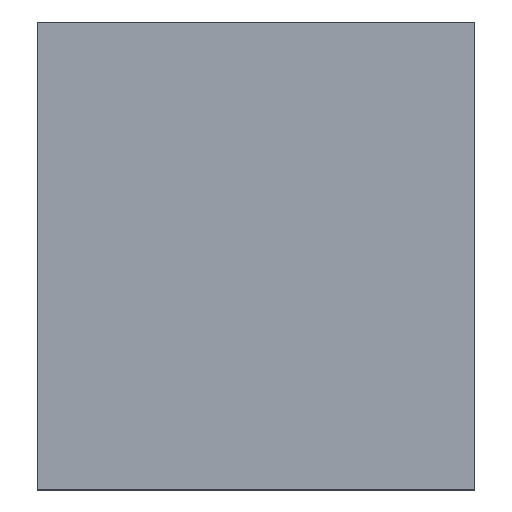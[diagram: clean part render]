
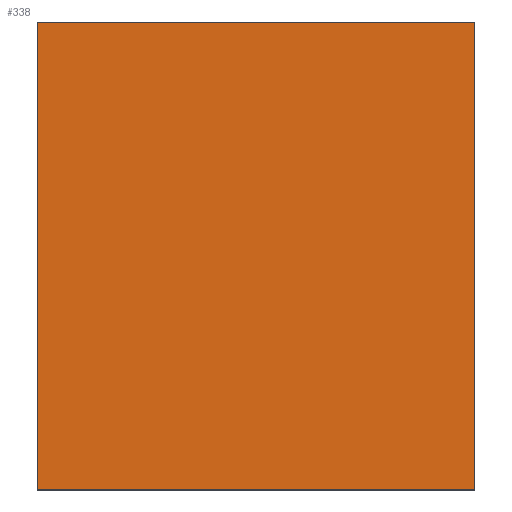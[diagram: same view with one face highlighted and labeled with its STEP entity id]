
A CAD part, top view. The second image highlights one B-rep face of the part: STEP entity #338.
In plain terms, the highlighted planar face has unit normal (0, 0, 1).
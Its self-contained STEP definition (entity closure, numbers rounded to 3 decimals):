
#24 = VERTEX_POINT('',#25);
#25 = CARTESIAN_POINT('',(100.,-107.,20.));
#32 = PLANE('',#33);
#33 = AXIS2_PLACEMENT_3D('',#34,#35,#36);
#34 = CARTESIAN_POINT('',(100.,-107.,0.));
#35 = DIRECTION('',(-0.,1.,-0.));
#36 = DIRECTION('',(1.,0.,0.));
#44 = PLANE('',#45);
#45 = AXIS2_PLACEMENT_3D('',#46,#47,#48);
#46 = CARTESIAN_POINT('',(100.,107.,0.));
#47 = DIRECTION('',(-1.,-0.,-0.));
#48 = DIRECTION('',(0.,1.,0.));
#56 = EDGE_CURVE('',#24,#57,#59,.T.);
#57 = VERTEX_POINT('',#58);
#58 = CARTESIAN_POINT('',(-100.,-107.,20.));
#59 = SURFACE_CURVE('',#60,(#64,#71),.PCURVE_S1.);
#60 = LINE('',#61,#62);
#61 = CARTESIAN_POINT('',(100.,-107.,20.));
#62 = VECTOR('',#63,1.);
#63 = DIRECTION('',(-1.,-0.,-0.));
#64 = PCURVE('',#32,#65);
#65 = DEFINITIONAL_REPRESENTATION('',(#66),#70);
#66 = LINE('',#67,#68);
#67 = CARTESIAN_POINT('',(-0.,-20.));
#68 = VECTOR('',#69,1.);
#69 = DIRECTION('',(-1.,0.));
#70 = ( GEOMETRIC_REPRESENTATION_CONTEXT(2) 
PARAMETRIC_REPRESENTATION_CONTEXT() REPRESENTATION_CONTEXT('2D SPACE',''
  ) );
#71 = PCURVE('',#72,#77);
#72 = PLANE('',#73);
#73 = AXIS2_PLACEMENT_3D('',#74,#75,#76);
#74 = CARTESIAN_POINT('',(0.,0.,20.));
#75 = DIRECTION('',(-0.,-0.,1.));
#76 = DIRECTION('',(1.,0.,0.));
#77 = DEFINITIONAL_REPRESENTATION('',(#78),#82);
#78 = LINE('',#79,#80);
#79 = CARTESIAN_POINT('',(100.,-107.));
#80 = VECTOR('',#81,1.);
#81 = DIRECTION('',(-1.,0.));
#82 = ( GEOMETRIC_REPRESENTATION_CONTEXT(2) 
PARAMETRIC_REPRESENTATION_CONTEXT() REPRESENTATION_CONTEXT('2D SPACE',''
  ) );
#100 = PLANE('',#101);
#101 = AXIS2_PLACEMENT_3D('',#102,#103,#104);
#102 = CARTESIAN_POINT('',(-100.,-107.,0.));
#103 = DIRECTION('',(1.,-0.,-0.));
#104 = DIRECTION('',(0.,-1.,0.));
#142 = EDGE_CURVE('',#57,#143,#145,.T.);
#143 = VERTEX_POINT('',#144);
#144 = CARTESIAN_POINT('',(-100.,107.,20.));
#145 = SURFACE_CURVE('',#146,(#150,#157),.PCURVE_S1.);
#146 = LINE('',#147,#148);
#147 = CARTESIAN_POINT('',(-100.,-107.,20.));
#148 = VECTOR('',#149,1.);
#149 = DIRECTION('',(-0.,1.,-0.));
#150 = PCURVE('',#100,#151);
#151 = DEFINITIONAL_REPRESENTATION('',(#152),#156);
#152 = LINE('',#153,#154);
#153 = CARTESIAN_POINT('',(-0.,-20.));
#154 = VECTOR('',#155,1.);
#155 = DIRECTION('',(-1.,0.));
#156 = ( GEOMETRIC_REPRESENTATION_CONTEXT(2) 
PARAMETRIC_REPRESENTATION_CONTEXT() REPRESENTATION_CONTEXT('2D SPACE',''
  ) );
#157 = PCURVE('',#72,#158);
#158 = DEFINITIONAL_REPRESENTATION('',(#159),#163);
#159 = LINE('',#160,#161);
#160 = CARTESIAN_POINT('',(-100.,-107.));
#161 = VECTOR('',#162,1.);
#162 = DIRECTION('',(-0.,1.));
#163 = ( GEOMETRIC_REPRESENTATION_CONTEXT(2) 
PARAMETRIC_REPRESENTATION_CONTEXT() REPRESENTATION_CONTEXT('2D SPACE',''
  ) );
#181 = PLANE('',#182);
#182 = AXIS2_PLACEMENT_3D('',#183,#184,#185);
#183 = CARTESIAN_POINT('',(-100.,107.,0.));
#184 = DIRECTION('',(-0.,-1.,-0.));
#185 = DIRECTION('',(-1.,0.,0.));
#218 = EDGE_CURVE('',#143,#219,#221,.T.);
#219 = VERTEX_POINT('',#220);
#220 = CARTESIAN_POINT('',(100.,107.,20.));
#221 = SURFACE_CURVE('',#222,(#226,#233),.PCURVE_S1.);
#222 = LINE('',#223,#224);
#223 = CARTESIAN_POINT('',(-100.,107.,20.));
#224 = VECTOR('',#225,1.);
#225 = DIRECTION('',(1.,-0.,-0.));
#226 = PCURVE('',#181,#227);
#227 = DEFINITIONAL_REPRESENTATION('',(#228),#232);
#228 = LINE('',#229,#230);
#229 = CARTESIAN_POINT('',(-0.,-20.));
#230 = VECTOR('',#231,1.);
#231 = DIRECTION('',(-1.,0.));
#232 = ( GEOMETRIC_REPRESENTATION_CONTEXT(2) 
PARAMETRIC_REPRESENTATION_CONTEXT() REPRESENTATION_CONTEXT('2D SPACE',''
  ) );
#233 = PCURVE('',#72,#234);
#234 = DEFINITIONAL_REPRESENTATION('',(#235),#239);
#235 = LINE('',#236,#237);
#236 = CARTESIAN_POINT('',(-100.,107.));
#237 = VECTOR('',#238,1.);
#238 = DIRECTION('',(1.,-0.));
#239 = ( GEOMETRIC_REPRESENTATION_CONTEXT(2) 
PARAMETRIC_REPRESENTATION_CONTEXT() REPRESENTATION_CONTEXT('2D SPACE',''
  ) );
#289 = EDGE_CURVE('',#219,#24,#290,.T.);
#290 = SURFACE_CURVE('',#291,(#295,#302),.PCURVE_S1.);
#291 = LINE('',#292,#293);
#292 = CARTESIAN_POINT('',(100.,107.,20.));
#293 = VECTOR('',#294,1.);
#294 = DIRECTION('',(-0.,-1.,-0.));
#295 = PCURVE('',#44,#296);
#296 = DEFINITIONAL_REPRESENTATION('',(#297),#301);
#297 = LINE('',#298,#299);
#298 = CARTESIAN_POINT('',(-0.,-20.));
#299 = VECTOR('',#300,1.);
#300 = DIRECTION('',(-1.,0.));
#301 = ( GEOMETRIC_REPRESENTATION_CONTEXT(2) 
PARAMETRIC_REPRESENTATION_CONTEXT() REPRESENTATION_CONTEXT('2D SPACE',''
  ) );
#302 = PCURVE('',#72,#303);
#303 = DEFINITIONAL_REPRESENTATION('',(#304),#308);
#304 = LINE('',#305,#306);
#305 = CARTESIAN_POINT('',(100.,107.));
#306 = VECTOR('',#307,1.);
#307 = DIRECTION('',(-0.,-1.));
#308 = ( GEOMETRIC_REPRESENTATION_CONTEXT(2) 
PARAMETRIC_REPRESENTATION_CONTEXT() REPRESENTATION_CONTEXT('2D SPACE',''
  ) );
#338 = ADVANCED_FACE('',(#339),#72,.T.);
#339 = FACE_BOUND('',#340,.F.);
#340 = EDGE_LOOP('',(#341,#342,#343,#344));
#341 = ORIENTED_EDGE('',*,*,#56,.T.);
#342 = ORIENTED_EDGE('',*,*,#142,.T.);
#343 = ORIENTED_EDGE('',*,*,#218,.T.);
#344 = ORIENTED_EDGE('',*,*,#289,.T.);
